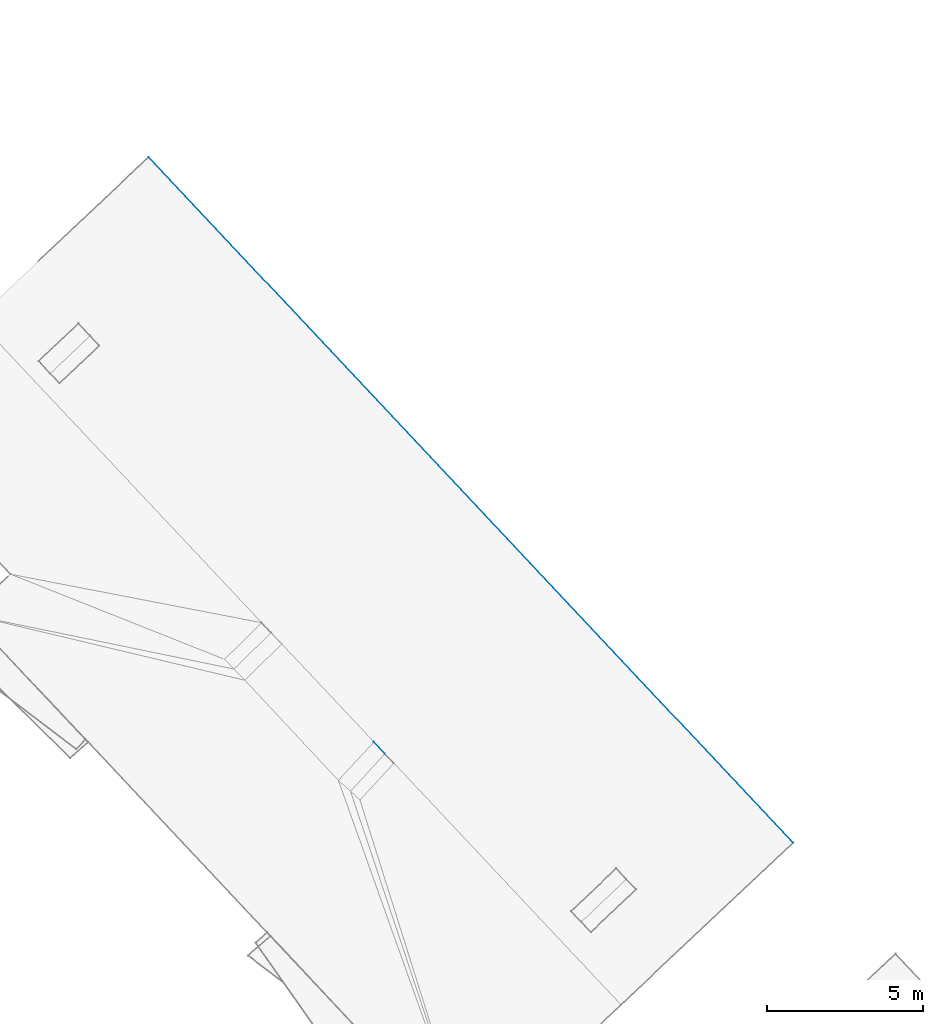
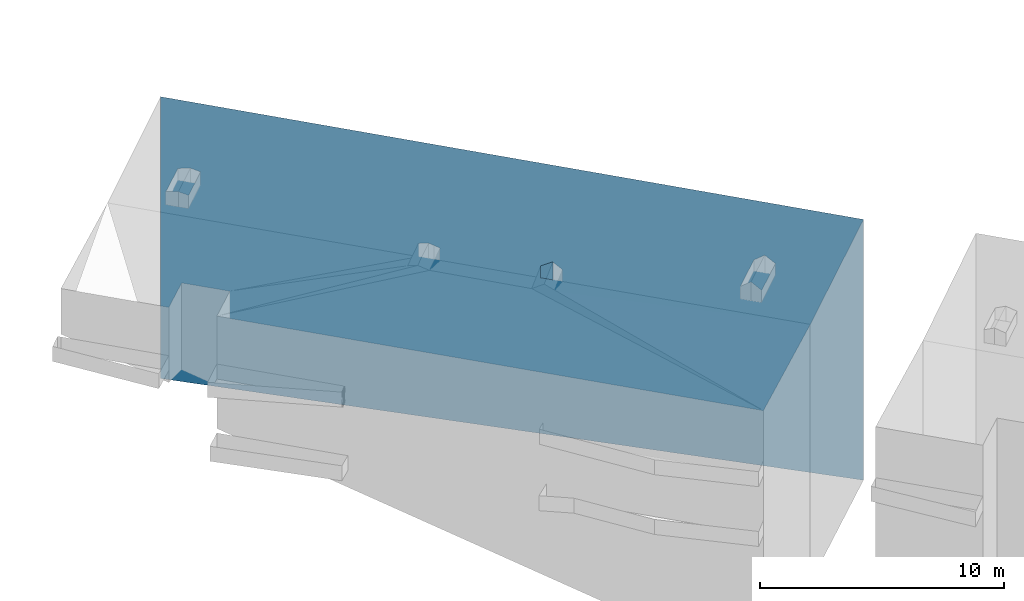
# Not in any storey, part 53 of 136: 2 walls.
"""IFC4 building model written with IfcOpenShell, lengths in metres."""

from ifc_helpers import new_model, entity, si_unit, converted_unit, origin, place, context, subcontext, project, spatial, face_set, surface_model, element, save


model = new_model("IFC4")

# Units and contexts
model_context = context("Model", 3, precision=1e-05, world=origin())
body_context = subcontext(model_context, "Body", "Model", "MODEL_VIEW")
ifc_project = project(units=[converted_unit("PLANEANGLEUNIT", "DEGREE", entity("IfcRatioMeasure", 0.0174532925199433), si_unit("PLANEANGLEUNIT", "RADIAN"), dimensions=[0, 0, 0, 0, 0, 0, 0]), si_unit("AREAUNIT", "SQUARE_METRE"), si_unit("LENGTHUNIT", "METRE")], contexts=[model_context])

# Site, building
site_placement = place(None, origin())
site = spatial("IfcSite", under=ifc_project, at=site_placement, Name="_site")
building_placement = place(site_placement, origin())
building = spatial("IfcBuilding", under=site, at=building_placement, Name="_building")

# Walls
wall_1_placement = place(building_placement, origin())
element("IfcWall", 1, at=wall_1_placement, inside=building, Name="Wall", PredefinedType="NOTDEFINED", context=body_context, shape_type="SurfaceModel", body=[
    surface_model("IfcFaceBasedSurfaceModel", [(13.088, 123.138, 51.25), (13.44, 122.76, 51.55), (13.44, 122.76, 50.65), (13.088, 123.138, 50.65)], [face_set([[[0, 1, 2, 3]]])]),
])
wall_2_placement = place(building_placement, origin())
element("IfcWall", 2, at=wall_2_placement, inside=building, Name="Wall", PredefinedType="NOTDEFINED", context=body_context, shape_type="SurfaceModel", body=[
    surface_model("IfcFaceBasedSurfaceModel", [(5.89, 141.84, 50.89), (26.5, 119.91, 50.83), (26.5, 119.91, 37.779), (5.89, 141.84, 36.789)], [face_set([[[0, 1, 2, 3]]])]),
])

save(model, "model.ifc")
